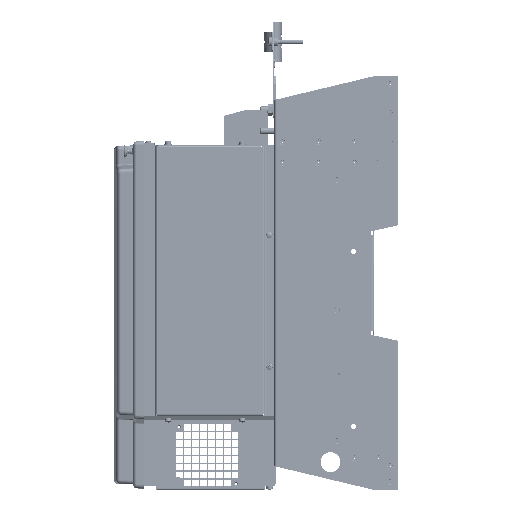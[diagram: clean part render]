
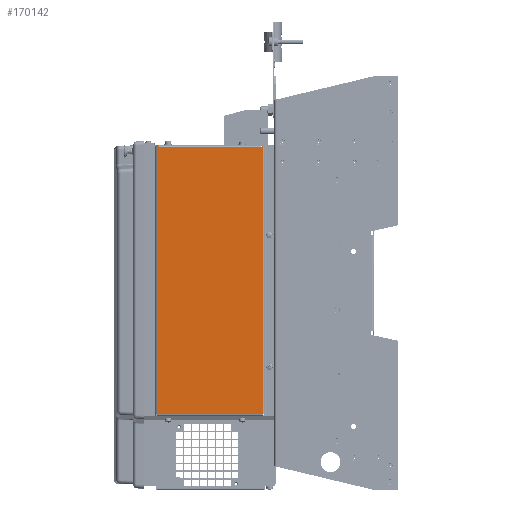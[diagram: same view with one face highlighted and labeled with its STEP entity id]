
A CAD part, left-side view. The second image highlights one B-rep face of the part: STEP entity #170142.
In plain terms, the highlighted planar face has unit normal (-1, 0, 0).
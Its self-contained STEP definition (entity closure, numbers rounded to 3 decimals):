
#81044 = VECTOR ( 'NONE', #81064, 1000. ) ;
#81064 = DIRECTION ( 'NONE',  ( 0., 0., 1. ) ) ;
#81310 = CARTESIAN_POINT ( 'NONE',  ( -170., 169.5, -424.654 ) ) ;
#81314 = CARTESIAN_POINT ( 'NONE',  ( -170., 302.5, -424.654 ) ) ;
#81324 = DIRECTION ( 'NONE',  ( 0., -1., 0. ) ) ;
#81325 = VECTOR ( 'NONE', #81324, 1000. ) ;
#81327 = CARTESIAN_POINT ( 'NONE',  ( -170., 300., -424.654 ) ) ;
#81328 = LINE ( 'NONE', #81327, #81325 ) ;
#81340 = DIRECTION ( 'NONE',  ( 0., 0., 1. ) ) ;
#81342 = DIRECTION ( 'NONE',  ( -1., 0., 0. ) ) ;
#81343 = CARTESIAN_POINT ( 'NONE',  ( -170., 300., -87.5 ) ) ;
#81344 = AXIS2_PLACEMENT_3D ( 'NONE', #81343, #81342, #81340 ) ;
#81345 = PLANE ( 'NONE',  #81344 ) ;
#81349 = FACE_OUTER_BOUND ( 'NONE', #170144, .T. ) ;
#81386 = CARTESIAN_POINT ( 'NONE',  ( -170., 169.5, -87.5 ) ) ;
#81455 = CARTESIAN_POINT ( 'NONE',  ( -170., 172., -89.5 ) ) ;
#81467 = DIRECTION ( 'NONE',  ( 0., -1., 0. ) ) ;
#81469 = VECTOR ( 'NONE', #81467, 1000. ) ;
#81471 = CARTESIAN_POINT ( 'NONE',  ( -170., 172., -89.5 ) ) ;
#81472 = LINE ( 'NONE', #81471, #81469 ) ;
#81486 = CARTESIAN_POINT ( 'NONE',  ( -170., 171., -89.5 ) ) ;
#81505 = DIRECTION ( 'NONE',  ( 0., 0., 1. ) ) ;
#81506 = VECTOR ( 'NONE', #81505, 1000. ) ;
#81508 = CARTESIAN_POINT ( 'NONE',  ( -170., 171., -87.5 ) ) ;
#81510 = LINE ( 'NONE', #81508, #81506 ) ;
#81513 = CARTESIAN_POINT ( 'NONE',  ( -170., 171., -87.5 ) ) ;
#81515 = DIRECTION ( 'NONE',  ( 0., -1., 0. ) ) ;
#81517 = VECTOR ( 'NONE', #81515, 1000. ) ;
#81519 = CARTESIAN_POINT ( 'NONE',  ( -170., 167.5, -87.5 ) ) ;
#81520 = LINE ( 'NONE', #81519, #81517 ) ;
#81529 = DIRECTION ( 'NONE',  ( 0., -1., 0. ) ) ;
#81531 = VECTOR ( 'NONE', #81529, 1000. ) ;
#81532 = CARTESIAN_POINT ( 'NONE',  ( -170., 300., -89.5 ) ) ;
#81535 = LINE ( 'NONE', #81532, #81531 ) ;
#81574 = CARTESIAN_POINT ( 'NONE',  ( -170., 300., -89.5 ) ) ;
#81588 = DIRECTION ( 'NONE',  ( 0., -1., 0. ) ) ;
#81589 = VECTOR ( 'NONE', #81588, 1000. ) ;
#81591 = CARTESIAN_POINT ( 'NONE',  ( -170., 300., -89.5 ) ) ;
#81592 = LINE ( 'NONE', #81591, #81589 ) ;
#81608 = CARTESIAN_POINT ( 'NONE',  ( -170., 302.5, -87.5 ) ) ;
#81609 = DIRECTION ( 'NONE',  ( 0., -1., 0. ) ) ;
#81611 = VECTOR ( 'NONE', #81609, 1000. ) ;
#81612 = CARTESIAN_POINT ( 'NONE',  ( -170., 304.5, -87.5 ) ) ;
#81613 = LINE ( 'NONE', #81612, #81611 ) ;
#81623 = CARTESIAN_POINT ( 'NONE',  ( -170., 301., -87.5 ) ) ;
#81625 = DIRECTION ( 'NONE',  ( 0., 0., -1. ) ) ;
#81627 = VECTOR ( 'NONE', #81625, 1000. ) ;
#81629 = CARTESIAN_POINT ( 'NONE',  ( -170., 301., -87.5 ) ) ;
#81630 = LINE ( 'NONE', #81629, #81627 ) ;
#81658 = CARTESIAN_POINT ( 'NONE',  ( -170., 301., -89.5 ) ) ;
#81670 = CARTESIAN_POINT ( 'NONE',  ( -170., 169.5, -424.654 ) ) ;
#81672 = LINE ( 'NONE', #81670, #81044 ) ;
#81749 = DIRECTION ( 'NONE',  ( 0., 0., -1. ) ) ;
#81751 = VECTOR ( 'NONE', #81749, 1000. ) ;
#81753 = CARTESIAN_POINT ( 'NONE',  ( -170., 302.5, -87.5 ) ) ;
#81755 = LINE ( 'NONE', #81753, #81751 ) ;
#170142 = ADVANCED_FACE ( 'NONE', ( #81349 ), #81345, .T. ) ;
#170144 = EDGE_LOOP ( 'NONE', ( #170148, #170164, #170200, #170218, #170235, #170257, #170273, #170322, #170335, #170358 ) ) ;
#170148 = ORIENTED_EDGE ( 'NONE', *, *, #170152, .T. ) ;
#170152 = EDGE_CURVE ( 'NONE', #170160, #170163, #81328, .T. ) ;
#170160 = VERTEX_POINT ( 'NONE', #81314 ) ;
#170163 = VERTEX_POINT ( 'NONE', #81310 ) ;
#170164 = ORIENTED_EDGE ( 'NONE', *, *, #170398, .T. ) ;
#170193 = VERTEX_POINT ( 'NONE', #81386 ) ;
#170200 = ORIENTED_EDGE ( 'NONE', *, *, #170202, .F. ) ;
#170202 = EDGE_CURVE ( 'NONE', #170204, #170193, #81520, .T. ) ;
#170204 = VERTEX_POINT ( 'NONE', #81513 ) ;
#170218 = ORIENTED_EDGE ( 'NONE', *, *, #170222, .F. ) ;
#170222 = EDGE_CURVE ( 'NONE', #170231, #170204, #81510, .T. ) ;
#170231 = VERTEX_POINT ( 'NONE', #81486 ) ;
#170235 = ORIENTED_EDGE ( 'NONE', *, *, #170244, .F. ) ;
#170244 = EDGE_CURVE ( 'NONE', #170248, #170231, #81472, .T. ) ;
#170248 = VERTEX_POINT ( 'NONE', #81455 ) ;
#170257 = ORIENTED_EDGE ( 'NONE', *, *, #170262, .F. ) ;
#170262 = EDGE_CURVE ( 'NONE', #170269, #170248, #81592, .T. ) ;
#170269 = VERTEX_POINT ( 'NONE', #81574 ) ;
#170273 = ORIENTED_EDGE ( 'NONE', *, *, #170303, .F. ) ;
#170303 = EDGE_CURVE ( 'NONE', #170308, #170269, #81535, .T. ) ;
#170308 = VERTEX_POINT ( 'NONE', #81658 ) ;
#170322 = ORIENTED_EDGE ( 'NONE', *, *, #170325, .F. ) ;
#170325 = EDGE_CURVE ( 'NONE', #170329, #170308, #81630, .T. ) ;
#170329 = VERTEX_POINT ( 'NONE', #81623 ) ;
#170335 = ORIENTED_EDGE ( 'NONE', *, *, #170344, .F. ) ;
#170344 = EDGE_CURVE ( 'NONE', #170347, #170329, #81613, .T. ) ;
#170347 = VERTEX_POINT ( 'NONE', #81608 ) ;
#170358 = ORIENTED_EDGE ( 'NONE', *, *, #170361, .T. ) ;
#170361 = EDGE_CURVE ( 'NONE', #170347, #170160, #81755, .T. ) ;
#170398 = EDGE_CURVE ( 'NONE', #170163, #170193, #81672, .T. ) ;
